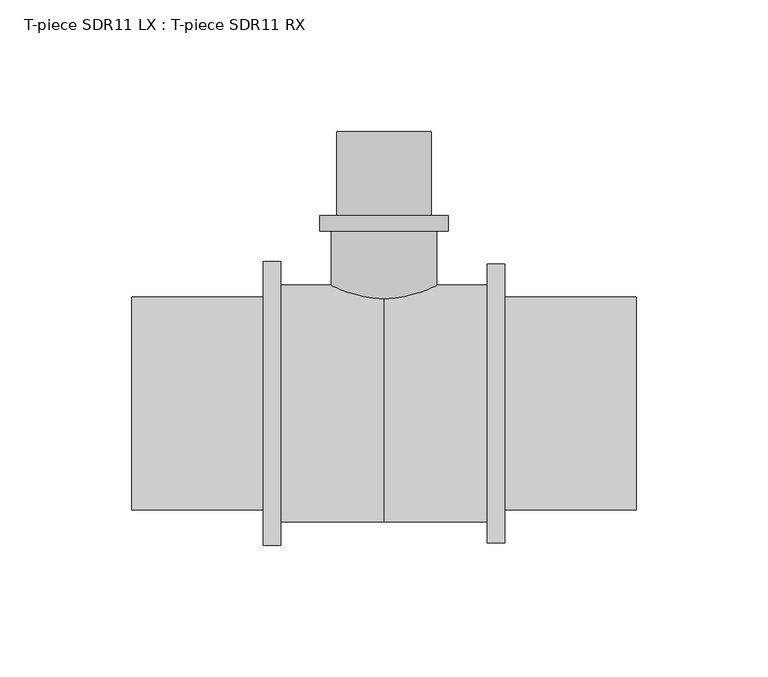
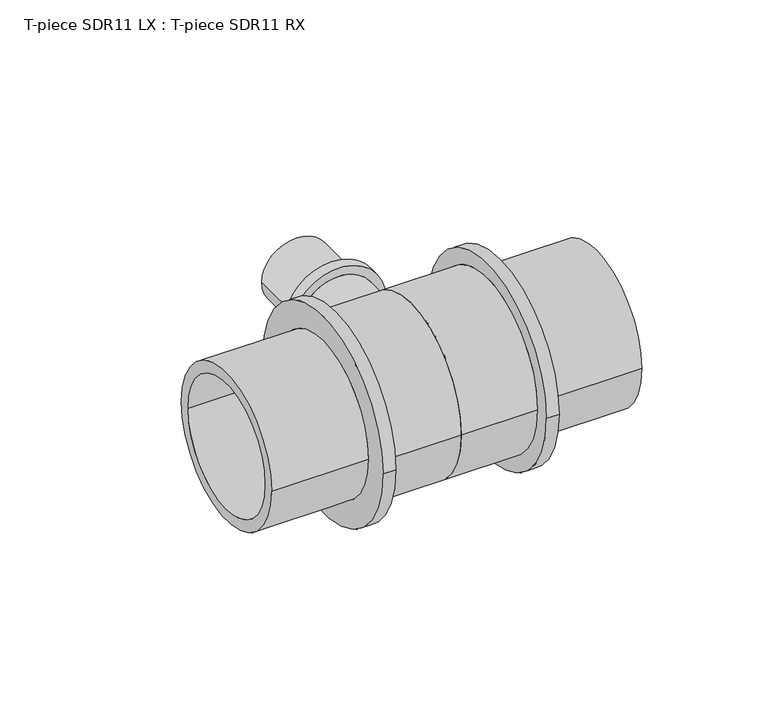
"""IFC4 building model written with IfcOpenShell, lengths in millimetres: pipe fitting geometry, T-piece SDR11 LX : T-piece SDR11 RX."""

from ifc_helpers import new_model, si_unit, point, frame, origin, place, context, project, spatial, polyline, circle_curve, ellipse_curve, trimmed, source, transform, mapped, element, save
from ifc_brep_helpers import plane_surface, cylinder_surface, revolved_surface, advanced_brep


def t_piece_sdr11_lx_t_piece_sdr11_rx_7a841b34(model_context):
    return source(origin(), model_context, "Body", "AdvancedBrep", [
        advanced_brep(
        [(20.0, 1.1781063, 0.0), (-20.0, 1.1781063, 0.0), (-20.0, 65.5, 0.0), (20.0, 65.5, 0.0), (13.5, 103.5, 0.0), (-13.5, 103.5, 0.0), (-13.5, 0.0, 0.0), (13.5, 0.0, 0.0), (18.0, 71.5, 0.0), (-18.0, 71.5, 0.0), (-18.0, 103.5, 0.0), (18.0, 103.5, 0.0), (24.5, 65.5, 0.0), (-24.5, 65.5, 0.0), (-24.5, 71.5, 0.0), (24.5, 71.5, 0.0)],
        [
            (0, 1, circle_curve(frame((0.0, 1.1781063, 0.0), z_axis=(0.0, 1.0, 0.0), x_axis=(-1.0, 0.0, 0.0)), 20.0)),
            (1, 2),
            (2, 3, circle_curve(frame((0.0, 65.5, 0.0), z_axis=(0.0, -1.0, 0.0), x_axis=(-1.0, 0.0, 0.0)), 20.0)),
            (3, 0),
            (4, 5, circle_curve(frame((0.0, 103.5, 0.0), z_axis=(0.0, 1.0, 0.0), x_axis=(-1.0, 0.0, 0.0)), 13.5)),
            (5, 6),
            (6, 7, circle_curve(frame((0.0, 0.0, 0.0), z_axis=(0.0, -1.0, 0.0), x_axis=(-1.0, 0.0, 0.0)), 13.5)),
            (7, 4),
            (8, 9, circle_curve(frame((0.0, 71.5, 0.0), z_axis=(0.0, 1.0, 0.0), x_axis=(-1.0, 0.0, 0.0)), 18.0)),
            (9, 10),
            (10, 11, circle_curve(frame((0.0, 103.5, 0.0), z_axis=(0.0, -1.0, 0.0), x_axis=(-1.0, 0.0, 0.0)), 18.0)),
            (11, 8),
            (12, 13, circle_curve(frame((0.0, 65.5, 0.0), z_axis=(0.0, 1.0, 0.0), x_axis=(-1.0, 0.0, 0.0)), 24.5)),
            (13, 14),
            (14, 15, circle_curve(frame((0.0, 71.5, 0.0), z_axis=(0.0, -1.0, 0.0), x_axis=(-1.0, 0.0, 0.0)), 24.5)),
            (15, 12),
            (12, 13, circle_curve(frame((0.0, 65.5, 0.0), z_axis=(0.0, -1.0, 0.0), x_axis=(1.0, 0.0, 0.0)), 24.5)),
            (2, 3, circle_curve(frame((0.0, 65.5, 0.0), z_axis=(0.0, 1.0, 0.0), x_axis=(1.0, 0.0, 0.0)), 20.0)),
            (1, 0, circle_curve(frame((0.0, 1.1781063, 0.0), z_axis=(0.0, 1.0, 0.0), x_axis=(1.0, 0.0, 0.0)), 20.0)),
            (5, 4, circle_curve(frame((0.0, 103.5, 0.0), z_axis=(0.0, 1.0, 0.0), x_axis=(1.0, 0.0, 0.0)), 13.5)),
            (7, 6, circle_curve(frame((0.0, 0.0, 0.0), z_axis=(0.0, -1.0, 0.0), x_axis=(1.0, 0.0, 0.0)), 13.5)),
            (10, 11, circle_curve(frame((0.0, 103.5, 0.0), z_axis=(0.0, 1.0, 0.0), x_axis=(1.0, 0.0, 0.0)), 18.0)),
            (9, 8, circle_curve(frame((0.0, 71.5, 0.0), z_axis=(0.0, 1.0, 0.0), x_axis=(1.0, 0.0, 0.0)), 18.0)),
            (14, 15, circle_curve(frame((0.0, 71.5, 0.0), z_axis=(0.0, 1.0, 0.0), x_axis=(1.0, 0.0, 0.0)), 24.5)),
            (6, 1, circle_curve(frame((-8.7462802, 44.7482083, 0.0), z_axis=(0.0, 0.0, -1.0), x_axis=(0.0, -1.0, 0.0)), 45.0)),
            (0, 7, circle_curve(frame((8.7462802, 44.7482083, 0.0), z_axis=(0.0, 0.0, -1.0), x_axis=(0.0, -1.0, 0.0)), 45.0)),
        ],
        [
            cylinder_surface(frame((0.0, 0.0, 0.0), z_axis=(0.0, -1.0, 0.0), x_axis=(-1.0, 0.0, 0.0)), 20.0),
            revolved_surface(polyline([(-13.5, 0.0, 0.0), (-13.5, 103.5, 0.0)]), (0.0, 0.0, 0.0), (0.0, -1.0, 0.0)),
            cylinder_surface(frame((0.0, 0.0, 0.0), z_axis=(0.0, -1.0, 0.0), x_axis=(-1.0, 0.0, 0.0)), 18.0),
            cylinder_surface(frame((0.0, 0.0, 0.0), z_axis=(0.0, -1.0, 0.0), x_axis=(-1.0, 0.0, 0.0)), 24.5),
            plane_surface(frame((0.0, 65.5, 0.0), z_axis=(0.0, -1.0, 0.0), x_axis=(1.0, 0.0, 0.0))),
            cylinder_surface(frame((0.0, 0.0, 0.0), z_axis=(0.0, -1.0, 0.0), x_axis=(1.0, 0.0, 0.0)), 20.0),
            revolved_surface(polyline([(13.5, 0.0, 0.0), (13.5, 103.5, 0.0)]), (0.0, 0.0, 0.0), (0.0, -1.0, 0.0)),
            plane_surface(frame((0.0, 103.5, 0.0), z_axis=(0.0, 1.0, 0.0), x_axis=(1.0, 0.0, 0.0))),
            cylinder_surface(frame((0.0, 0.0, 0.0), z_axis=(0.0, -1.0, 0.0), x_axis=(1.0, 0.0, 0.0)), 18.0),
            plane_surface(frame((0.0, 71.5, 0.0), z_axis=(0.0, 1.0, 0.0), x_axis=(1.0, 0.0, 0.0))),
            cylinder_surface(frame((0.0, 0.0, 0.0), z_axis=(0.0, -1.0, 0.0), x_axis=(1.0, 0.0, 0.0)), 24.5),
            revolved_surface(trimmed(ellipse_curve(frame((-8.7462802, 44.7482083, 0.0), z_axis=(0.0, 0.0, 1.0), x_axis=(0.0, -1.0, 0.0)), 45.0, 45.0), [point((-20.0, 1.1781063, 0.0))], [point((-13.5, 0.0, 0.0))], True, "CARTESIAN"), (0.0, 0.0, 0.0), (0.0, -1.0, 0.0)),
            revolved_surface(trimmed(ellipse_curve(frame((8.7462802, 44.7482083, 0.0), z_axis=(0.0, 0.0, -1.0), x_axis=(0.0, -1.0, 0.0)), 45.0, 45.0), [point((20.0, 1.1781063, 0.0))], [point((13.5, 0.0, 0.0))], True, "CARTESIAN"), (0.0, 0.0, 0.0), (0.0, -1.0, 0.0)),
        ],
        [
            (0, [[1, 2, 3, 4]]),
            (1, [[5, 6, 7, 8]]),
            (2, [[9, 10, 11, 12]]),
            (3, [[13, 14, 15, 16]]),
            (4, [[17, -13], [18, -3]]),
            (5, [[19, -4, -18, -2]]),
            (6, [[20, -8, 21, -6]]),
            (7, [[22, -11], [-20, -5]]),
            (8, [[23, -12, -22, -10]]),
            (9, [[24, -15], [-23, -9]]),
            (10, [[-17, -16, -24, -14]]),
            (11, [[-7, 25, -1, 26]]),
            (12, [[-21, -26, -19, -25]]),
        ],
    ),
        advanced_brep(
        [(39.3, 45.0, 0.0), (39.3, -45.0, 0.0), (0.0, -45.0, 0.0), (0.0, 45.0, 0.0), (0.0, 34.5, 0.0), (0.0, -34.5, 0.0), (96.0, -34.5, 0.0), (96.0, 34.5, 0.0), (96.0, 40.5, 0.0), (96.0, -40.5, 0.0), (45.9, -40.5, 0.0), (45.9, 40.5, 0.0), (45.9, 53.0, 0.0), (45.9, -53.0, 0.0), (39.3, -53.0, 0.0), (39.3, 53.0, 0.0)],
        [
            (0, 1, circle_curve(frame((39.3, 0.0, 0.0), z_axis=(-1.0, 0.0, 0.0), x_axis=(0.0, -1.0, 0.0)), 45.0)),
            (1, 2),
            (2, 3, circle_curve(frame((0.0, 0.0, 0.0), z_axis=(1.0, 0.0, 0.0), x_axis=(0.0, -1.0, 0.0)), 45.0)),
            (3, 0),
            (4, 5, circle_curve(frame((0.0, 0.0, 0.0), z_axis=(-1.0, 0.0, 0.0), x_axis=(0.0, -1.0, 0.0)), 34.5)),
            (5, 6),
            (6, 7, circle_curve(frame((96.0, 0.0, 0.0), z_axis=(1.0, 0.0, 0.0), x_axis=(0.0, -1.0, 0.0)), 34.5)),
            (7, 4),
            (8, 9, circle_curve(frame((96.0, 0.0, 0.0), z_axis=(-1.0, 0.0, 0.0), x_axis=(0.0, -1.0, 0.0)), 40.5)),
            (9, 10),
            (10, 11, circle_curve(frame((45.9, 0.0, 0.0), z_axis=(1.0, 0.0, 0.0), x_axis=(0.0, -1.0, 0.0)), 40.5)),
            (11, 8),
            (12, 13, circle_curve(frame((45.9, 0.0, 0.0), z_axis=(-1.0, 0.0, 0.0), x_axis=(0.0, -1.0, 0.0)), 53.0)),
            (13, 14),
            (14, 15, circle_curve(frame((39.3, 0.0, 0.0), z_axis=(1.0, 0.0, 0.0), x_axis=(0.0, -1.0, 0.0)), 53.0)),
            (15, 12),
            (14, 15, circle_curve(frame((39.3, 0.0, 0.0), z_axis=(-1.0, 0.0, 0.0), x_axis=(0.0, 1.0, 0.0)), 53.0)),
            (0, 1, circle_curve(frame((39.3, 0.0, 0.0), z_axis=(1.0, 0.0, 0.0), x_axis=(0.0, 1.0, 0.0)), 45.0)),
            (3, 2, circle_curve(frame((0.0, 0.0, 0.0), z_axis=(1.0, 0.0, 0.0), x_axis=(0.0, 1.0, 0.0)), 45.0)),
            (4, 5, circle_curve(frame((0.0, 0.0, 0.0), z_axis=(1.0, 0.0, 0.0), x_axis=(0.0, 1.0, 0.0)), 34.5)),
            (7, 6, circle_curve(frame((96.0, 0.0, 0.0), z_axis=(1.0, 0.0, 0.0), x_axis=(0.0, 1.0, 0.0)), 34.5)),
            (8, 9, circle_curve(frame((96.0, 0.0, 0.0), z_axis=(1.0, 0.0, 0.0), x_axis=(0.0, 1.0, 0.0)), 40.5)),
            (11, 10, circle_curve(frame((45.9, 0.0, 0.0), z_axis=(1.0, 0.0, 0.0), x_axis=(0.0, 1.0, 0.0)), 40.5)),
            (12, 13, circle_curve(frame((45.9, 0.0, 0.0), z_axis=(1.0, 0.0, 0.0), x_axis=(0.0, 1.0, 0.0)), 53.0)),
        ],
        [
            cylinder_surface(frame((0.0, 0.0, 0.0), z_axis=(1.0, 0.0, 0.0), x_axis=(0.0, -1.0, 0.0)), 45.0),
            revolved_surface(polyline([(96.0, -34.5, 0.0), (0.0, -34.5, 0.0)]), (0.0, 0.0, 0.0), (1.0, 0.0, 0.0)),
            cylinder_surface(frame((0.0, 0.0, 0.0), z_axis=(1.0, 0.0, 0.0), x_axis=(0.0, -1.0, 0.0)), 40.5),
            cylinder_surface(frame((0.0, 0.0, 0.0), z_axis=(1.0, 0.0, 0.0), x_axis=(0.0, -1.0, 0.0)), 53.0),
            plane_surface(frame((39.3, 0.0, 0.0), z_axis=(-1.0, 0.0, 0.0), x_axis=(0.0, 1.0, 0.0))),
            cylinder_surface(frame((0.0, 0.0, 0.0), z_axis=(1.0, 0.0, 0.0), x_axis=(0.0, 1.0, 0.0)), 45.0),
            plane_surface(frame((0.0, 0.0, 0.0), z_axis=(-1.0, 0.0, 0.0), x_axis=(0.0, 1.0, 0.0))),
            revolved_surface(polyline([(96.0, 34.5, 0.0), (0.0, 34.5, 0.0)]), (0.0, 0.0, 0.0), (1.0, 0.0, 0.0)),
            plane_surface(frame((96.0, 0.0, 0.0), z_axis=(1.0, 0.0, 0.0), x_axis=(0.0, 1.0, 0.0))),
            cylinder_surface(frame((0.0, 0.0, 0.0), z_axis=(1.0, 0.0, 0.0), x_axis=(0.0, 1.0, 0.0)), 40.5),
            plane_surface(frame((45.9, 0.0, 0.0), z_axis=(1.0, 0.0, 0.0), x_axis=(0.0, 1.0, 0.0))),
            cylinder_surface(frame((0.0, 0.0, 0.0), z_axis=(1.0, 0.0, 0.0), x_axis=(0.0, 1.0, 0.0)), 53.0),
        ],
        [
            (0, [[1, 2, 3, 4]]),
            (1, [[5, 6, 7, 8]]),
            (2, [[9, 10, 11, 12]]),
            (3, [[13, 14, 15, 16]]),
            (4, [[17, -15], [18, -1]]),
            (5, [[-18, -4, 19, -2]]),
            (6, [[-19, -3], [20, -5]]),
            (7, [[-20, -8, 21, -6]]),
            (8, [[22, -9], [-21, -7]]),
            (9, [[-22, -12, 23, -10]]),
            (10, [[24, -13], [-23, -11]]),
            (11, [[-24, -16, -17, -14]]),
        ],
    ),
        advanced_brep(
        [(0.0, 45.0, 0.0), (0.0, -45.0, 0.0), (-39.3, -45.0, 0.0), (-39.3, 45.0, 0.0), (-96.0, 34.5, 0.0), (-96.0, -34.5, 0.0), (0.0, -34.5, 0.0), (0.0, 34.5, 0.0), (-45.9, 40.5, 0.0), (-45.9, -40.5, 0.0), (-96.0, -40.5, 0.0), (-96.0, 40.5, 0.0), (-39.3, 54.0, 0.0), (-39.3, -54.0, 0.0), (-45.9, -54.0, 0.0), (-45.9, 54.0, 0.0)],
        [
            (0, 1, circle_curve(frame((0.0, 0.0, 0.0), z_axis=(-1.0, 0.0, 0.0), x_axis=(0.0, -1.0, 0.0)), 45.0)),
            (1, 2),
            (2, 3, circle_curve(frame((-39.3, 0.0, 0.0), z_axis=(1.0, 0.0, 0.0), x_axis=(0.0, -1.0, 0.0)), 45.0)),
            (3, 0),
            (4, 5, circle_curve(frame((-96.0, 0.0, 0.0), z_axis=(-1.0, 0.0, 0.0), x_axis=(0.0, -1.0, 0.0)), 34.5)),
            (5, 6),
            (6, 7, circle_curve(frame((0.0, 0.0, 0.0), z_axis=(1.0, 0.0, 0.0), x_axis=(0.0, -1.0, 0.0)), 34.5)),
            (7, 4),
            (8, 9, circle_curve(frame((-45.9, 0.0, 0.0), z_axis=(-1.0, 0.0, 0.0), x_axis=(0.0, -1.0, 0.0)), 40.5)),
            (9, 10),
            (10, 11, circle_curve(frame((-96.0, 0.0, 0.0), z_axis=(1.0, 0.0, 0.0), x_axis=(0.0, -1.0, 0.0)), 40.5)),
            (11, 8),
            (12, 13, circle_curve(frame((-39.3, 0.0, 0.0), z_axis=(-1.0, 0.0, 0.0), x_axis=(0.0, -1.0, 0.0)), 54.0)),
            (13, 14),
            (14, 15, circle_curve(frame((-45.9, 0.0, 0.0), z_axis=(1.0, 0.0, 0.0), x_axis=(0.0, -1.0, 0.0)), 54.0)),
            (15, 12),
            (12, 13, circle_curve(frame((-39.3, 0.0, 0.0), z_axis=(1.0, 0.0, 0.0), x_axis=(0.0, 1.0, 0.0)), 54.0)),
            (2, 3, circle_curve(frame((-39.3, 0.0, 0.0), z_axis=(-1.0, 0.0, 0.0), x_axis=(0.0, 1.0, 0.0)), 45.0)),
            (1, 0, circle_curve(frame((0.0, 0.0, 0.0), z_axis=(-1.0, 0.0, 0.0), x_axis=(0.0, 1.0, 0.0)), 45.0)),
            (6, 7, circle_curve(frame((0.0, 0.0, 0.0), z_axis=(-1.0, 0.0, 0.0), x_axis=(0.0, 1.0, 0.0)), 34.5)),
            (5, 4, circle_curve(frame((-96.0, 0.0, 0.0), z_axis=(-1.0, 0.0, 0.0), x_axis=(0.0, 1.0, 0.0)), 34.5)),
            (10, 11, circle_curve(frame((-96.0, 0.0, 0.0), z_axis=(-1.0, 0.0, 0.0), x_axis=(0.0, 1.0, 0.0)), 40.5)),
            (9, 8, circle_curve(frame((-45.9, 0.0, 0.0), z_axis=(-1.0, 0.0, 0.0), x_axis=(0.0, 1.0, 0.0)), 40.5)),
            (14, 15, circle_curve(frame((-45.9, 0.0, 0.0), z_axis=(-1.0, 0.0, 0.0), x_axis=(0.0, 1.0, 0.0)), 54.0)),
        ],
        [
            cylinder_surface(frame((0.0, 0.0, 0.0), z_axis=(1.0, 0.0, 0.0), x_axis=(0.0, -1.0, 0.0)), 45.0),
            revolved_surface(polyline([(0.0, -34.5, 0.0), (-96.0, -34.5, 0.0)]), (0.0, 0.0, 0.0), (1.0, 0.0, 0.0)),
            cylinder_surface(frame((0.0, 0.0, 0.0), z_axis=(1.0, 0.0, 0.0), x_axis=(0.0, -1.0, 0.0)), 40.5),
            cylinder_surface(frame((0.0, 0.0, 0.0), z_axis=(1.0, 0.0, 0.0), x_axis=(0.0, -1.0, 0.0)), 54.0),
            plane_surface(frame((-39.3, 0.0, 0.0), z_axis=(1.0, 0.0, 0.0), x_axis=(0.0, 1.0, 0.0))),
            cylinder_surface(frame((0.0, 0.0, 0.0), z_axis=(1.0, 0.0, 0.0), x_axis=(0.0, 1.0, 0.0)), 45.0),
            plane_surface(frame((0.0, 0.0, 0.0), z_axis=(1.0, 0.0, 0.0), x_axis=(0.0, 1.0, 0.0))),
            revolved_surface(polyline([(0.0, 34.5, 0.0), (-96.0, 34.5, 0.0)]), (0.0, 0.0, 0.0), (1.0, 0.0, 0.0)),
            plane_surface(frame((-96.0, 0.0, 0.0), z_axis=(-1.0, 0.0, 0.0), x_axis=(0.0, 1.0, 0.0))),
            cylinder_surface(frame((0.0, 0.0, 0.0), z_axis=(1.0, 0.0, 0.0), x_axis=(0.0, 1.0, 0.0)), 40.5),
            plane_surface(frame((-45.9, 0.0, 0.0), z_axis=(-1.0, 0.0, 0.0), x_axis=(0.0, 1.0, 0.0))),
            cylinder_surface(frame((0.0, 0.0, 0.0), z_axis=(1.0, 0.0, 0.0), x_axis=(0.0, 1.0, 0.0)), 54.0),
        ],
        [
            (0, [[1, 2, 3, 4]]),
            (1, [[5, 6, 7, 8]]),
            (2, [[9, 10, 11, 12]]),
            (3, [[13, 14, 15, 16]]),
            (4, [[17, -13], [18, -3]]),
            (5, [[19, -4, -18, -2]]),
            (6, [[-19, -1], [20, -7]]),
            (7, [[21, -8, -20, -6]]),
            (8, [[22, -11], [-21, -5]]),
            (9, [[23, -12, -22, -10]]),
            (10, [[24, -15], [-23, -9]]),
            (11, [[-17, -16, -24, -14]]),
        ],
    ),
    ])


if __name__ == "__main__":
    model = new_model("IFC4")
    model_context = context("Model", 3, world=origin())
    ifc_project = project(units=[si_unit("LENGTHUNIT", "METRE", prefix="MILLI")], contexts=[model_context])
    site = spatial("IfcSite", under=ifc_project)
    building = spatial("IfcBuilding", under=site)
    placement = place(None, origin())
    t_piece_sdr11_lx_t_piece_sdr11_rx_shape = t_piece_sdr11_lx_t_piece_sdr11_rx_7a841b34(model_context)
    element("IfcPipeFitting", 1, ObjectType="T-piece SDR11 LX : T-piece SDR11 RX", at=placement, inside=building, context=model_context, shape_type="MappedRepresentation", body=[
        mapped(t_piece_sdr11_lx_t_piece_sdr11_rx_shape, transform((0.0, 0.0, 0.0), x_axis=(1.0, 0.0, 0.0), y_axis=(0.0, 1.0, 0.0), z_axis=(0.0, 0.0, 1.0))),
    ])
    save(model, "model.ifc")
